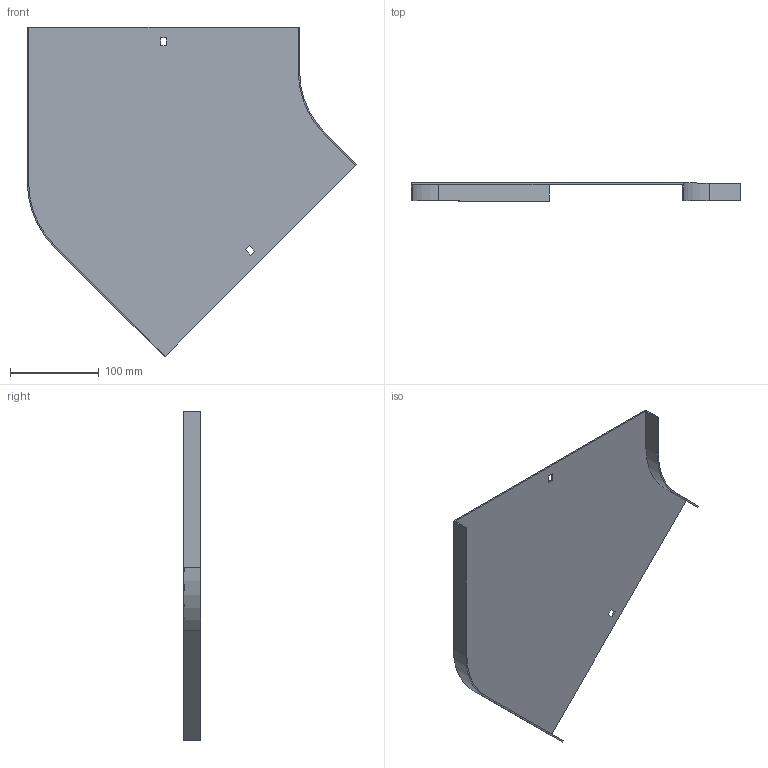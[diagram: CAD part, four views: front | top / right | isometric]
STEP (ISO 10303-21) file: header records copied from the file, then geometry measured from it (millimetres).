
FILE_DESCRIPTION (( 'STEP AP214' ), '1' );
FILE_NAME ('11N1R300.step', '2025-02-21T09:21:06', ( '' ), ( '' ), 'SwSTEP 2.0', 'SolidWorks 2023', '' );
FILE_SCHEMA (( 'AUTOMOTIVE_DESIGN' ));
Length unit declared in the file: millimetre
Products named in the file (1): 11N1R300
Bounding box: 371.21 x 20 x 372.09 mm (x, y, z)
Volume: 158888.4 mm3; surface area: 213889.5 mm2
Topology: 1 solids, 1 shells, 26 faces, 72 edges, 48 vertices
Faces by surface type: plane 22, cylinder 4
Entity records: 855 total; most frequent: CARTESIAN_POINT 147, ORIENTED_EDGE 144, DIRECTION 134, EDGE_CURVE 72, LINE 64, VECTOR 64, VERTEX_POINT 48, AXIS2_PLACEMENT_3D 35
